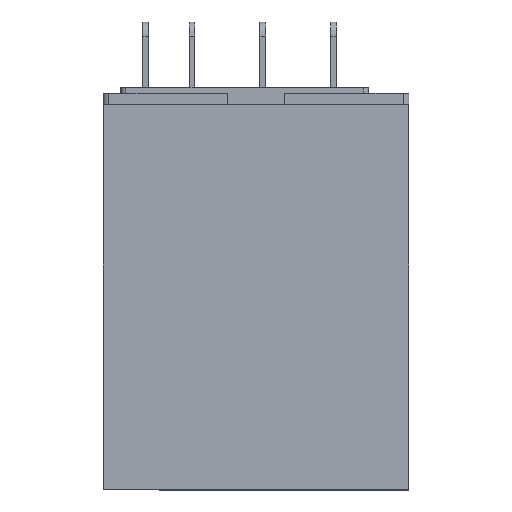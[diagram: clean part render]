
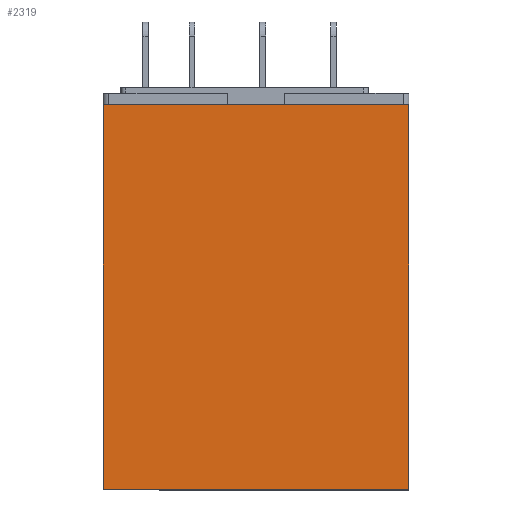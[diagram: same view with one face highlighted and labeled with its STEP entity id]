
A CAD part, top view. The second image highlights one B-rep face of the part: STEP entity #2319.
In plain terms, the highlighted planar face has unit normal (0, 0, 1).
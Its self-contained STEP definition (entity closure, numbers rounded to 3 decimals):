
#36 = ORIENTED_EDGE ( 'NONE', *, *, #3541, .T. ) ;
#567 = LINE ( 'NONE', #3203, #1606 ) ;
#976 = LINE ( 'NONE', #3582, #6357 ) ;
#1344 = DIRECTION ( 'NONE',  ( 1., 0., 0. ) ) ;
#1419 = DIRECTION ( 'NONE',  ( 0., -1., 0. ) ) ;
#1532 = VECTOR ( 'NONE', #1344, 1000. ) ;
#1606 = VECTOR ( 'NONE', #7879, 1000. ) ;
#1992 = LINE ( 'NONE', #6691, #1532 ) ;
#2108 = DIRECTION ( 'NONE',  ( -1., 0., 0. ) ) ;
#2319 = ADVANCED_FACE ( 'NONE', ( #4892 ), #4849, .F. ) ;
#2644 = EDGE_CURVE ( 'NONE', #2723, #6840, #1992, .T. ) ;
#2716 = LINE ( 'NONE', #7392, #6058 ) ;
#2723 = VERTEX_POINT ( 'NONE', #2808 ) ;
#2808 = CARTESIAN_POINT ( 'NONE',  ( -13.5, 34., 10.5 ) ) ;
#2871 = VERTEX_POINT ( 'NONE', #7741 ) ;
#3203 = CARTESIAN_POINT ( 'NONE',  ( 13.5, 34., 10.5 ) ) ;
#3325 = CARTESIAN_POINT ( 'NONE',  ( 13.5, 0., 10.5 ) ) ;
#3519 = ORIENTED_EDGE ( 'NONE', *, *, #6198, .T. ) ;
#3541 = EDGE_CURVE ( 'NONE', #2871, #8026, #976, .T. ) ;
#3582 = CARTESIAN_POINT ( 'NONE',  ( -13.5, 0., 10.5 ) ) ;
#3587 = CARTESIAN_POINT ( 'NONE',  ( -13.5, 34., 10.5 ) ) ;
#4018 = AXIS2_PLACEMENT_3D ( 'NONE', #3587, #6150, #2108 ) ;
#4476 = EDGE_LOOP ( 'NONE', ( #36, #8093, #8014, #3519 ) ) ;
#4849 = PLANE ( 'NONE',  #4018 ) ;
#4892 = FACE_OUTER_BOUND ( 'NONE', #4476, .T. ) ;
#6058 = VECTOR ( 'NONE', #1419, 1000. ) ;
#6105 = DIRECTION ( 'NONE',  ( 1., 0., 0. ) ) ;
#6150 = DIRECTION ( 'NONE',  ( 0., 0., -1. ) ) ;
#6198 = EDGE_CURVE ( 'NONE', #2723, #2871, #2716, .T. ) ;
#6357 = VECTOR ( 'NONE', #6105, 1000. ) ;
#6691 = CARTESIAN_POINT ( 'NONE',  ( -13.5, 34., 10.5 ) ) ;
#6840 = VERTEX_POINT ( 'NONE', #8207 ) ;
#7392 = CARTESIAN_POINT ( 'NONE',  ( -13.5, 34., 10.5 ) ) ;
#7552 = EDGE_CURVE ( 'NONE', #6840, #8026, #567, .T. ) ;
#7741 = CARTESIAN_POINT ( 'NONE',  ( -13.5, 0., 10.5 ) ) ;
#7879 = DIRECTION ( 'NONE',  ( 0., -1., 0. ) ) ;
#8014 = ORIENTED_EDGE ( 'NONE', *, *, #2644, .F. ) ;
#8026 = VERTEX_POINT ( 'NONE', #3325 ) ;
#8093 = ORIENTED_EDGE ( 'NONE', *, *, #7552, .F. ) ;
#8207 = CARTESIAN_POINT ( 'NONE',  ( 13.5, 34., 10.5 ) ) ;
